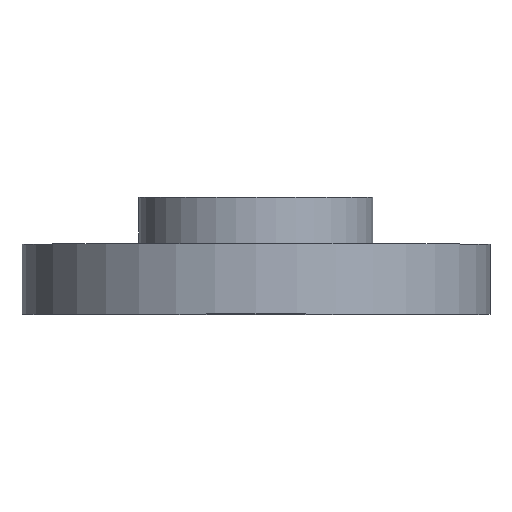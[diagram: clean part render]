
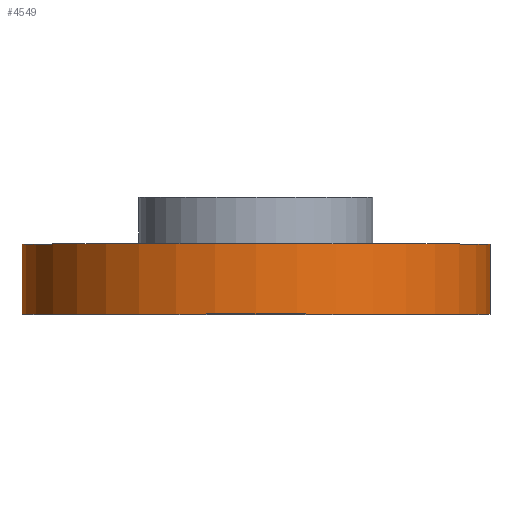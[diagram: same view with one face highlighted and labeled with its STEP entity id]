
A CAD part, top view. The second image highlights one B-rep face of the part: STEP entity #4549.
In plain terms, the highlighted cylindrical face has radius 10 mm (diameter 20 mm), a partial arc.
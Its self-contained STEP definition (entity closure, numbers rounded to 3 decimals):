
#212 = VERTEX_POINT ( 'NONE', #614 ) ;
#614 = CARTESIAN_POINT ( 'NONE',  ( 10., 10.1, 0. ) ) ;
#801 = VERTEX_POINT ( 'NONE', #2250 ) ;
#854 = DIRECTION ( 'NONE',  ( 0., -1., 0. ) ) ;
#989 = LINE ( 'NONE', #3133, #1492 ) ;
#1045 = ORIENTED_EDGE ( 'NONE', *, *, #2862, .F. ) ;
#1097 = EDGE_CURVE ( 'NONE', #212, #1588, #4448, .T. ) ;
#1184 = DIRECTION ( 'NONE',  ( -1., 0., 0. ) ) ;
#1186 = AXIS2_PLACEMENT_3D ( 'NONE', #2988, #2622, #1184 ) ;
#1363 = CARTESIAN_POINT ( 'NONE',  ( 0., 12.1, 0. ) ) ;
#1492 = VECTOR ( 'NONE', #2874, 1000. ) ;
#1588 = VERTEX_POINT ( 'NONE', #4538 ) ;
#1726 = VECTOR ( 'NONE', #854, 1000. ) ;
#1872 = EDGE_LOOP ( 'NONE', ( #4638, #4378, #3368, #1045 ) ) ;
#1901 = EDGE_CURVE ( 'NONE', #1588, #801, #1973, .T. ) ;
#1973 = CIRCLE ( 'NONE', #2939, 10. ) ;
#2089 = DIRECTION ( 'NONE',  ( 0., 1., 0. ) ) ;
#2250 = CARTESIAN_POINT ( 'NONE',  ( -10., 7.1, 0. ) ) ;
#2256 = CIRCLE ( 'NONE', #1186, 10. ) ;
#2351 = AXIS2_PLACEMENT_3D ( 'NONE', #1363, #2089, #2461 ) ;
#2461 = DIRECTION ( 'NONE',  ( 1., 0., 0. ) ) ;
#2622 = DIRECTION ( 'NONE',  ( 0., 1., 0. ) ) ;
#2811 = CYLINDRICAL_SURFACE ( 'NONE', #2351, 10. ) ;
#2862 = EDGE_CURVE ( 'NONE', #3172, #212, #2256, .T. ) ;
#2874 = DIRECTION ( 'NONE',  ( 0., 1., 0. ) ) ;
#2939 = AXIS2_PLACEMENT_3D ( 'NONE', #3749, #4381, #4170 ) ;
#2988 = CARTESIAN_POINT ( 'NONE',  ( 0., 10.1, 0. ) ) ;
#3019 = CARTESIAN_POINT ( 'NONE',  ( 10., 10.1, 0. ) ) ;
#3133 = CARTESIAN_POINT ( 'NONE',  ( -10., 7.1, 0. ) ) ;
#3172 = VERTEX_POINT ( 'NONE', #4205 ) ;
#3182 = EDGE_CURVE ( 'NONE', #801, #3172, #989, .T. ) ;
#3368 = ORIENTED_EDGE ( 'NONE', *, *, #1097, .F. ) ;
#3487 = FACE_OUTER_BOUND ( 'NONE', #1872, .T. ) ;
#3749 = CARTESIAN_POINT ( 'NONE',  ( 0., 7.1, 0. ) ) ;
#4170 = DIRECTION ( 'NONE',  ( 1., 0., 0. ) ) ;
#4205 = CARTESIAN_POINT ( 'NONE',  ( -10., 10.1, 0. ) ) ;
#4378 = ORIENTED_EDGE ( 'NONE', *, *, #1901, .F. ) ;
#4381 = DIRECTION ( 'NONE',  ( 0., -1., 0. ) ) ;
#4448 = LINE ( 'NONE', #3019, #1726 ) ;
#4538 = CARTESIAN_POINT ( 'NONE',  ( 10., 7.1, 0. ) ) ;
#4549 = ADVANCED_FACE ( 'NONE', ( #3487 ), #2811, .T. ) ;
#4638 = ORIENTED_EDGE ( 'NONE', *, *, #3182, .F. ) ;
